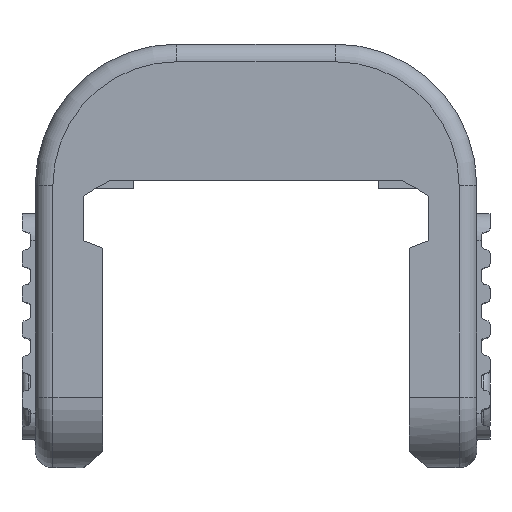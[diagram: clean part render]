
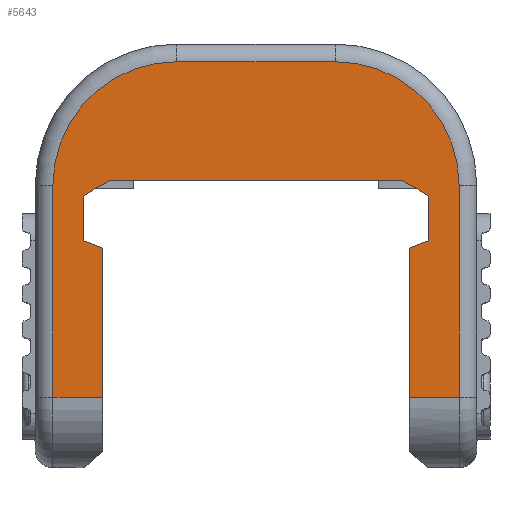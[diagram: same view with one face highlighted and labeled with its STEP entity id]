
A CAD part, front view. The second image highlights one B-rep face of the part: STEP entity #5643.
In plain terms, the highlighted planar face has unit normal (0, -1, 0).
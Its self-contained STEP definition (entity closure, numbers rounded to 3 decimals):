
#5370=CARTESIAN_POINT('',(19.51,557.,25.754));
#5371=VERTEX_POINT('',#5370);
#5386=CARTESIAN_POINT('',(19.51,557.,20.74));
#5387=VERTEX_POINT('',#5386);
#5394=CARTESIAN_POINT('',(19.51,557.,20.74));
#5395=DIRECTION('',(0.,0.,1.));
#5396=VECTOR('',#5395,5.015);
#5397=LINE('',#5394,#5396);
#5398=EDGE_CURVE('',#5387,#5371,#5397,.T.);
#5418=CARTESIAN_POINT('',(-19.51,557.,25.753));
#5419=VERTEX_POINT('',#5418);
#5426=CARTESIAN_POINT('',(-19.51,557.,20.74));
#5427=VERTEX_POINT('',#5426);
#5428=CARTESIAN_POINT('',(-19.51,557.,20.74));
#5429=DIRECTION('',(0.,0.,1.));
#5430=VECTOR('',#5429,5.013);
#5431=LINE('',#5428,#5430);
#5432=EDGE_CURVE('',#5427,#5419,#5431,.T.);
#5508=CARTESIAN_POINT('',(25.,557.,19.));
#5509=DIRECTION('',(0.,1.,0.));
#5510=DIRECTION('',(0.,0.,1.));
#5511=AXIS2_PLACEMENT_3D('',#5508,#5509,#5510);
#5512=PLANE('',#5511);
#5513=CARTESIAN_POINT('',(17.335,557.,3.));
#5514=VERTEX_POINT('',#5513);
#5515=CARTESIAN_POINT('',(23.,557.,3.));
#5516=VERTEX_POINT('',#5515);
#5517=CARTESIAN_POINT('',(17.335,557.,3.));
#5518=DIRECTION('',(1.,-0.,-0.));
#5519=VECTOR('',#5518,5.665);
#5520=LINE('',#5517,#5519);
#5521=EDGE_CURVE('',#5514,#5516,#5520,.T.);
#5522=ORIENTED_EDGE('',*,*,#5521,.T.);
#5523=CARTESIAN_POINT('',(23.,557.,27.));
#5524=VERTEX_POINT('',#5523);
#5525=CARTESIAN_POINT('',(23.,557.,3.));
#5526=DIRECTION('',(-0.,-0.,1.));
#5527=VECTOR('',#5526,24.);
#5528=LINE('',#5525,#5527);
#5529=EDGE_CURVE('',#5516,#5524,#5528,.T.);
#5530=ORIENTED_EDGE('',*,*,#5529,.T.);
#5531=CARTESIAN_POINT('',(9.,557.,41.));
#5532=VERTEX_POINT('',#5531);
#5533=CARTESIAN_POINT('',(9.,557.,27.));
#5534=DIRECTION('',(-0.,-1.,-0.));
#5535=DIRECTION('',(0.,-0.,1.));
#5536=AXIS2_PLACEMENT_3D('',#5533,#5534,#5535);
#5537=CIRCLE('',#5536,14.);
#5538=EDGE_CURVE('',#5524,#5532,#5537,.T.);
#5539=ORIENTED_EDGE('',*,*,#5538,.T.);
#5540=CARTESIAN_POINT('',(-9.,557.,41.));
#5541=VERTEX_POINT('',#5540);
#5542=CARTESIAN_POINT('',(9.,557.,41.));
#5543=DIRECTION('',(-1.,0.,0.));
#5544=VECTOR('',#5543,18.);
#5545=LINE('',#5542,#5544);
#5546=EDGE_CURVE('',#5532,#5541,#5545,.T.);
#5547=ORIENTED_EDGE('',*,*,#5546,.T.);
#5548=CARTESIAN_POINT('',(-23.,557.,27.));
#5549=VERTEX_POINT('',#5548);
#5550=CARTESIAN_POINT('',(-9.,557.,27.));
#5551=DIRECTION('',(-0.,-1.,-0.));
#5552=DIRECTION('',(0.,-0.,1.));
#5553=AXIS2_PLACEMENT_3D('',#5550,#5551,#5552);
#5554=CIRCLE('',#5553,14.);
#5555=EDGE_CURVE('',#5541,#5549,#5554,.T.);
#5556=ORIENTED_EDGE('',*,*,#5555,.T.);
#5557=CARTESIAN_POINT('',(-23.,557.,3.));
#5558=VERTEX_POINT('',#5557);
#5559=CARTESIAN_POINT('',(-23.,557.,27.));
#5560=DIRECTION('',(0.,0.,-1.));
#5561=VECTOR('',#5560,24.);
#5562=LINE('',#5559,#5561);
#5563=EDGE_CURVE('',#5549,#5558,#5562,.T.);
#5564=ORIENTED_EDGE('',*,*,#5563,.T.);
#5565=CARTESIAN_POINT('',(-17.35,557.,3.));
#5566=VERTEX_POINT('',#5565);
#5567=CARTESIAN_POINT('',(-23.,557.,3.));
#5568=DIRECTION('',(1.,-0.,-0.));
#5569=VECTOR('',#5568,5.65);
#5570=LINE('',#5567,#5569);
#5571=EDGE_CURVE('',#5558,#5566,#5570,.T.);
#5572=ORIENTED_EDGE('',*,*,#5571,.T.);
#5573=CARTESIAN_POINT('',(-17.35,557.,19.9));
#5574=VERTEX_POINT('',#5573);
#5575=CARTESIAN_POINT('',(-17.35,557.,3.));
#5576=DIRECTION('',(0.,0.,1.));
#5577=VECTOR('',#5576,16.9);
#5578=LINE('',#5575,#5577);
#5579=EDGE_CURVE('',#5566,#5574,#5578,.T.);
#5580=ORIENTED_EDGE('',*,*,#5579,.T.);
#5581=CARTESIAN_POINT('',(-17.35,557.,19.9));
#5582=DIRECTION('',(-0.932,0.,0.362));
#5583=VECTOR('',#5582,2.318);
#5584=LINE('',#5581,#5583);
#5585=EDGE_CURVE('',#5574,#5427,#5584,.T.);
#5586=ORIENTED_EDGE('',*,*,#5585,.T.);
#5587=ORIENTED_EDGE('',*,*,#5432,.T.);
#5588=CARTESIAN_POINT('',(-18.195,557.,26.679));
#5589=VERTEX_POINT('',#5588);
#5590=CARTESIAN_POINT('',(-18.195,557.,26.679));
#5591=DIRECTION('',(-0.818,0.,-0.576));
#5592=VECTOR('',#5591,1.608);
#5593=LINE('',#5590,#5592);
#5594=EDGE_CURVE('',#5589,#5419,#5593,.T.);
#5595=ORIENTED_EDGE('',*,*,#5594,.F.);
#5596=CARTESIAN_POINT('',(-16.6,557.,27.5));
#5597=VERTEX_POINT('',#5596);
#5598=CARTESIAN_POINT('',(-16.6,557.,27.5));
#5599=DIRECTION('',(-0.889,0.,-0.458));
#5600=VECTOR('',#5599,1.794);
#5601=LINE('',#5598,#5600);
#5602=EDGE_CURVE('',#5597,#5589,#5601,.T.);
#5603=ORIENTED_EDGE('',*,*,#5602,.F.);
#5604=CARTESIAN_POINT('',(16.6,557.,27.5));
#5605=VERTEX_POINT('',#5604);
#5606=CARTESIAN_POINT('',(-16.6,557.,27.5));
#5607=DIRECTION('',(1.,0.,0.));
#5608=VECTOR('',#5607,33.2);
#5609=LINE('',#5606,#5608);
#5610=EDGE_CURVE('',#5597,#5605,#5609,.T.);
#5611=ORIENTED_EDGE('',*,*,#5610,.T.);
#5612=CARTESIAN_POINT('',(18.195,557.,26.679));
#5613=VERTEX_POINT('',#5612);
#5614=CARTESIAN_POINT('',(16.6,557.,27.5));
#5615=DIRECTION('',(0.889,0.,-0.458));
#5616=VECTOR('',#5615,1.794);
#5617=LINE('',#5614,#5616);
#5618=EDGE_CURVE('',#5605,#5613,#5617,.T.);
#5619=ORIENTED_EDGE('',*,*,#5618,.T.);
#5620=CARTESIAN_POINT('',(19.51,557.,25.754));
#5621=DIRECTION('',(-0.818,0.,0.575));
#5622=VECTOR('',#5621,1.607);
#5623=LINE('',#5620,#5622);
#5624=EDGE_CURVE('',#5371,#5613,#5623,.T.);
#5625=ORIENTED_EDGE('',*,*,#5624,.F.);
#5626=ORIENTED_EDGE('',*,*,#5398,.F.);
#5627=CARTESIAN_POINT('',(17.35,557.,19.9));
#5628=VERTEX_POINT('',#5627);
#5629=CARTESIAN_POINT('',(17.35,557.,19.9));
#5630=DIRECTION('',(0.932,0.,0.362));
#5631=VECTOR('',#5630,2.318);
#5632=LINE('',#5629,#5631);
#5633=EDGE_CURVE('',#5628,#5387,#5632,.T.);
#5634=ORIENTED_EDGE('',*,*,#5633,.F.);
#5635=CARTESIAN_POINT('',(17.335,557.,3.));
#5636=DIRECTION('',(0.001,0.,1.));
#5637=VECTOR('',#5636,16.9);
#5638=LINE('',#5635,#5637);
#5639=EDGE_CURVE('',#5514,#5628,#5638,.T.);
#5640=ORIENTED_EDGE('',*,*,#5639,.F.);
#5641=EDGE_LOOP('',(#5522,#5530,#5539,#5547,#5556,#5564,#5572,#5580,#5586,#5587,#5595,#5603,#5611,#5619,#5625,#5626,#5634,#5640));
#5642=FACE_BOUND('',#5641,.T.);
#5643=ADVANCED_FACE('',(#5642),#5512,.F.);
